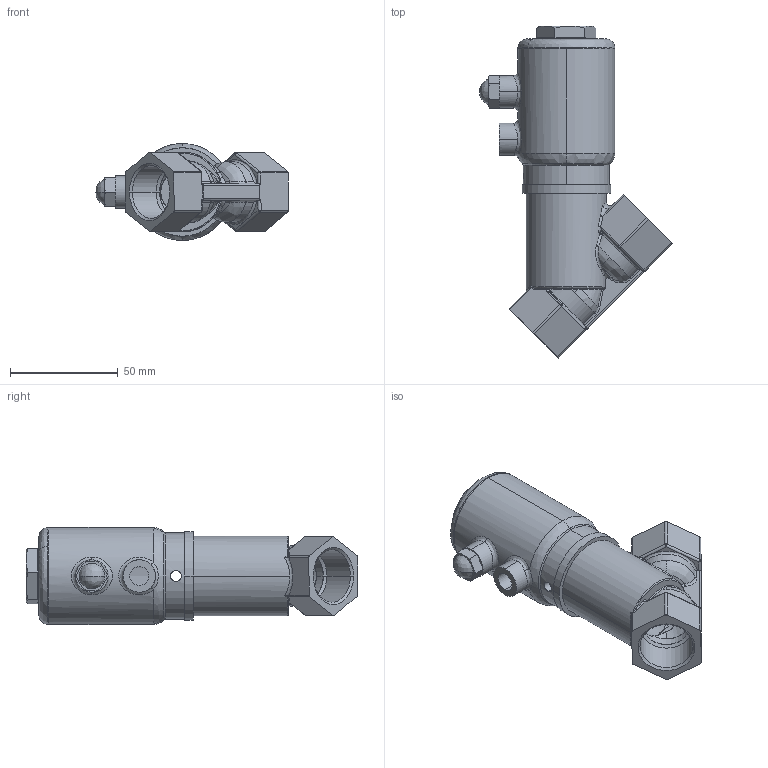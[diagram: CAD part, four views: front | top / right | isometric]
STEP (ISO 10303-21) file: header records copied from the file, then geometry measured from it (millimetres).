
FILE_DESCRIPTION (( 'STEP AP203' ), '1' );
FILE_NAME ('PCIPFM_020_0_1.STEP', '2017-07-25T15:27:36', ( 'user' ), ( '' ), 'SwSTEP 2.0', 'SolidWorks 2013', '' );
FILE_SCHEMA (( 'CONFIG_CONTROL_DESIGN' ));
Length unit declared in the file: millimetre
Products named in the file (1): PCIPFM_020_0_1
Bounding box: 89.49 x 153.89 x 45 mm (x, y, z)
Surface area: 31173.2 mm2 (no closed solid volume)
Topology: 0 solids, 6 shells, 273 faces, 713 edges, 424 vertices
Faces by surface type: bspline 117, cylinder 82, plane 51, cone 23
Entity records: 15538 total; most frequent: CARTESIAN_POINT 9781, ORIENTED_EDGE 1312, DIRECTION 986, EDGE_CURVE 690, VERTEX_POINT 424, AXIS2_PLACEMENT_3D 400, EDGE_LOOP 287, FACE_OUTER_BOUND 273
